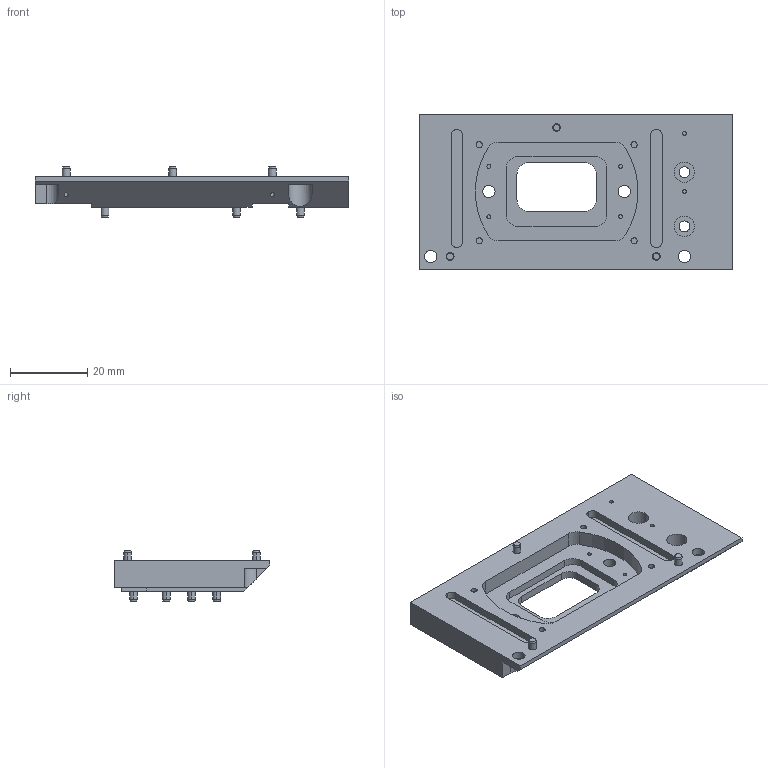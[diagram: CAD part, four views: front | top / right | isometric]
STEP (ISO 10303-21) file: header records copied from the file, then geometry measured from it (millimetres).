
FILE_DESCRIPTION(('CATIA V5 STEP Exchange','CAx-IF Rec.Pracs.--- Model Styling and Organization---1.4--- 2014-01-23','CAx-IF Rec.Pracs.---3D Tessellated Data Validation Properties---0.5---2014-09-14'),'2;1');
FILE_NAME('C:\Users\IS33\Desktop\220112移動データ\手配用データ\DT341M503-00-.stp','2022-01-12T07:04:18+00:00',('none'),('none'),'CATIA Version 5-6 Release 2019 SP3','CATIA V5 STEP AP242 v1','none');
FILE_SCHEMA(('AP242_MANAGED_MODEL_BASED_3D_ENGINEERING_MIM_LF {1 0 10303 442 1 1 4}'));
Length unit declared in the file: millimetre
Products named in the file (1): Base_plate_02_3-2a
Bounding box: 81 x 40.25 x 13 mm (x, y, z)
Volume: 16575.1 mm3; surface area: 9509.5 mm2
Topology: 10 solids, 10 shells, 185 faces, 426 edges, 278 vertices
Faces by surface type: cylinder 97, plane 70, cone 18
Entity records: 4905 total; most frequent: CARTESIAN_POINT 900, ORIENTED_EDGE 852, DIRECTION 654, EDGE_CURVE 426, AXIS2_PLACEMENT_3D 325, VERTEX_POINT 278, EDGE_LOOP 234, VECTOR 213
